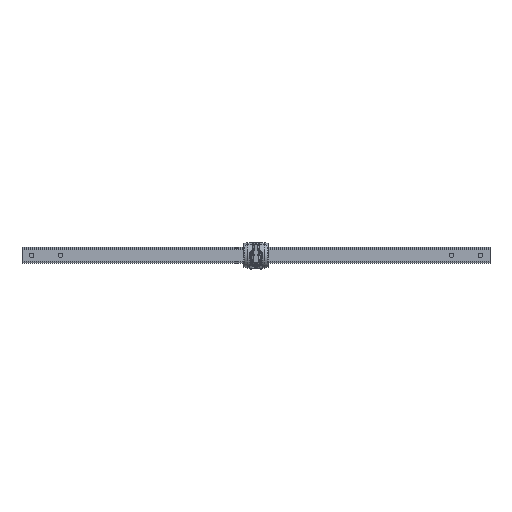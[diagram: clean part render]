
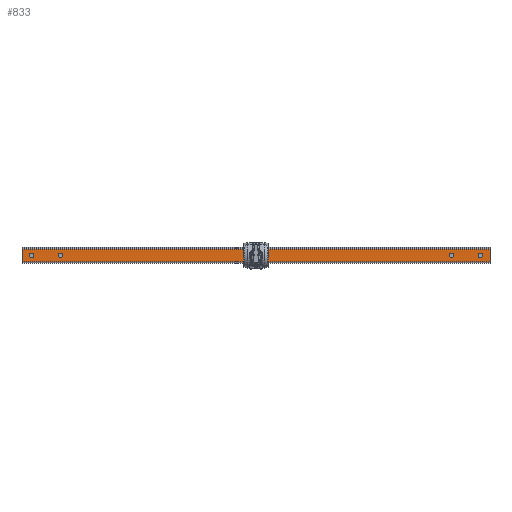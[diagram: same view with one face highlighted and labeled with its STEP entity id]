
A CAD part, front view. The second image highlights one B-rep face of the part: STEP entity #833.
In plain terms, the highlighted planar face has unit normal (0, -1, 0).
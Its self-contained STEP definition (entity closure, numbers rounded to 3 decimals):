
#225=DIRECTION('',(0.,0.,-1.));
#226=VECTOR('',#225,20.);
#227=CARTESIAN_POINT('',(-365.,-12.5,10.));
#228=LINE('',#227,#226);
#276=DIRECTION('',(0.,0.,-1.));
#277=VECTOR('',#276,20.);
#278=CARTESIAN_POINT('',(365.,-12.5,10.));
#279=LINE('',#278,#277);
#322=DIRECTION('',(-1.,0.,0.));
#323=VECTOR('',#322,730.);
#324=CARTESIAN_POINT('',(365.,-12.5,-10.));
#325=LINE('',#324,#323);
#326=DIRECTION('',(-1.,0.,0.));
#327=VECTOR('',#326,730.);
#328=CARTESIAN_POINT('',(365.,-12.5,10.));
#329=LINE('',#328,#327);
#330=CARTESIAN_POINT('',(350.,-12.5,0.));
#331=DIRECTION('',(0.,-1.,0.));
#332=DIRECTION('',(-1.,0.,0.));
#333=AXIS2_PLACEMENT_3D('',#330,#331,#332);
#335=CARTESIAN_POINT('',(350.,-12.5,0.));
#336=DIRECTION('',(0.,-1.,0.));
#337=DIRECTION('',(1.,0.,0.));
#338=AXIS2_PLACEMENT_3D('',#335,#336,#337);
#340=CARTESIAN_POINT('',(305.,-12.5,0.));
#341=DIRECTION('',(0.,-1.,0.));
#342=DIRECTION('',(-1.,0.,0.));
#343=AXIS2_PLACEMENT_3D('',#340,#341,#342);
#345=CARTESIAN_POINT('',(305.,-12.5,0.));
#346=DIRECTION('',(0.,-1.,0.));
#347=DIRECTION('',(1.,0.,0.));
#348=AXIS2_PLACEMENT_3D('',#345,#346,#347);
#350=CARTESIAN_POINT('',(0.,-12.5,0.));
#351=DIRECTION('',(0.,-1.,0.));
#352=DIRECTION('',(-1.,0.,0.));
#353=AXIS2_PLACEMENT_3D('',#350,#351,#352);
#355=CARTESIAN_POINT('',(0.,-12.5,0.));
#356=DIRECTION('',(0.,-1.,0.));
#357=DIRECTION('',(1.,0.,0.));
#358=AXIS2_PLACEMENT_3D('',#355,#356,#357);
#360=CARTESIAN_POINT('',(-350.,-12.5,0.));
#361=DIRECTION('',(0.,1.,0.));
#362=DIRECTION('',(1.,0.,0.));
#363=AXIS2_PLACEMENT_3D('',#360,#361,#362);
#365=CARTESIAN_POINT('',(-350.,-12.5,0.));
#366=DIRECTION('',(0.,1.,0.));
#367=DIRECTION('',(-1.,0.,0.));
#368=AXIS2_PLACEMENT_3D('',#365,#366,#367);
#370=CARTESIAN_POINT('',(-305.,-12.5,0.));
#371=DIRECTION('',(0.,1.,0.));
#372=DIRECTION('',(1.,0.,0.));
#373=AXIS2_PLACEMENT_3D('',#370,#371,#372);
#375=CARTESIAN_POINT('',(-305.,-12.5,0.));
#376=DIRECTION('',(0.,1.,0.));
#377=DIRECTION('',(-1.,0.,0.));
#378=AXIS2_PLACEMENT_3D('',#375,#376,#377);
#591=CARTESIAN_POINT('',(-365.,-12.5,-10.));
#593=VERTEX_POINT('',#591);
#594=CARTESIAN_POINT('',(365.,-12.5,-10.));
#595=VERTEX_POINT('',#594);
#606=CARTESIAN_POINT('',(-365.,-12.5,10.));
#608=VERTEX_POINT('',#606);
#612=CARTESIAN_POINT('',(365.,-12.5,10.));
#613=VERTEX_POINT('',#612);
#614=CARTESIAN_POINT('',(346.6,-12.5,0.));
#615=CARTESIAN_POINT('',(353.4,-12.5,0.));
#616=VERTEX_POINT('',#614);
#617=VERTEX_POINT('',#615);
#622=CARTESIAN_POINT('',(301.6,-12.5,0.));
#623=CARTESIAN_POINT('',(308.4,-12.5,0.));
#624=VERTEX_POINT('',#622);
#625=VERTEX_POINT('',#623);
#630=CARTESIAN_POINT('',(-3.4,-12.5,0.));
#631=CARTESIAN_POINT('',(3.4,-12.5,0.));
#632=VERTEX_POINT('',#630);
#633=VERTEX_POINT('',#631);
#639=CARTESIAN_POINT('',(-346.6,-12.5,0.));
#641=VERTEX_POINT('',#639);
#643=CARTESIAN_POINT('',(-353.4,-12.5,0.));
#645=VERTEX_POINT('',#643);
#647=CARTESIAN_POINT('',(-301.6,-12.5,0.));
#649=VERTEX_POINT('',#647);
#651=CARTESIAN_POINT('',(-308.4,-12.5,0.));
#653=VERTEX_POINT('',#651);
#791=CARTESIAN_POINT('',(-365.,-12.5,12.5));
#792=DIRECTION('',(0.,-1.,0.));
#793=DIRECTION('',(0.,0.,-1.));
#794=AXIS2_PLACEMENT_3D('',#791,#792,#793);
#795=PLANE('',#794);
#796=ORIENTED_EDGE('',*,*,#784,.T.);
#797=ORIENTED_EDGE('',*,*,#684,.F.);
#799=ORIENTED_EDGE('',*,*,#798,.F.);
#800=ORIENTED_EDGE('',*,*,#735,.T.);
#801=EDGE_LOOP('',(#796,#797,#799,#800));
#802=FACE_OUTER_BOUND('',#801,.F.);
#804=ORIENTED_EDGE('',*,*,#803,.T.);
#806=ORIENTED_EDGE('',*,*,#805,.T.);
#807=EDGE_LOOP('',(#804,#806));
#808=FACE_BOUND('',#807,.F.);
#810=ORIENTED_EDGE('',*,*,#809,.T.);
#812=ORIENTED_EDGE('',*,*,#811,.T.);
#813=EDGE_LOOP('',(#810,#812));
#814=FACE_BOUND('',#813,.F.);
#816=ORIENTED_EDGE('',*,*,#815,.T.);
#818=ORIENTED_EDGE('',*,*,#817,.T.);
#819=EDGE_LOOP('',(#816,#818));
#820=FACE_BOUND('',#819,.F.);
#822=ORIENTED_EDGE('',*,*,#821,.F.);
#824=ORIENTED_EDGE('',*,*,#823,.F.);
#825=EDGE_LOOP('',(#822,#824));
#826=FACE_BOUND('',#825,.F.);
#828=ORIENTED_EDGE('',*,*,#827,.F.);
#830=ORIENTED_EDGE('',*,*,#829,.F.);
#831=EDGE_LOOP('',(#828,#830));
#832=FACE_BOUND('',#831,.F.);
#334=CIRCLE('',#333,3.4);
#339=CIRCLE('',#338,3.4);
#344=CIRCLE('',#343,3.4);
#349=CIRCLE('',#348,3.4);
#354=CIRCLE('',#353,3.4);
#359=CIRCLE('',#358,3.4);
#364=CIRCLE('',#363,3.4);
#369=CIRCLE('',#368,3.4);
#374=CIRCLE('',#373,3.4);
#379=CIRCLE('',#378,3.4);
#684=EDGE_CURVE('',#608,#593,#228,.T.);
#735=EDGE_CURVE('',#613,#595,#279,.T.);
#784=EDGE_CURVE('',#595,#593,#325,.T.);
#798=EDGE_CURVE('',#613,#608,#329,.T.);
#803=EDGE_CURVE('',#616,#617,#334,.T.);
#805=EDGE_CURVE('',#617,#616,#339,.T.);
#809=EDGE_CURVE('',#624,#625,#344,.T.);
#811=EDGE_CURVE('',#625,#624,#349,.T.);
#815=EDGE_CURVE('',#632,#633,#354,.T.);
#817=EDGE_CURVE('',#633,#632,#359,.T.);
#821=EDGE_CURVE('',#641,#645,#364,.T.);
#823=EDGE_CURVE('',#645,#641,#369,.T.);
#827=EDGE_CURVE('',#649,#653,#374,.T.);
#829=EDGE_CURVE('',#653,#649,#379,.T.);
#833=ADVANCED_FACE('',(#802,#808,#814,#820,#826,#832),#795,.T.);
